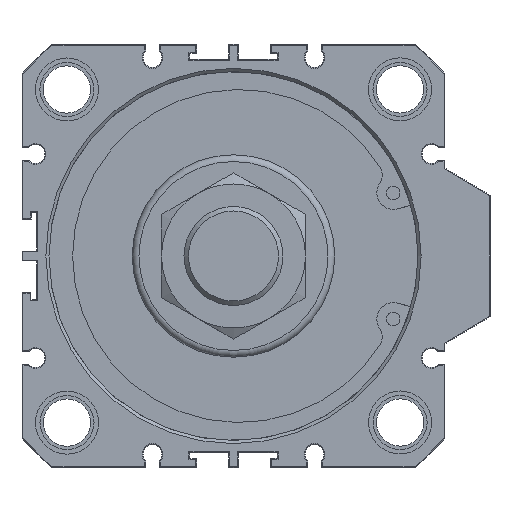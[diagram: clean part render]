
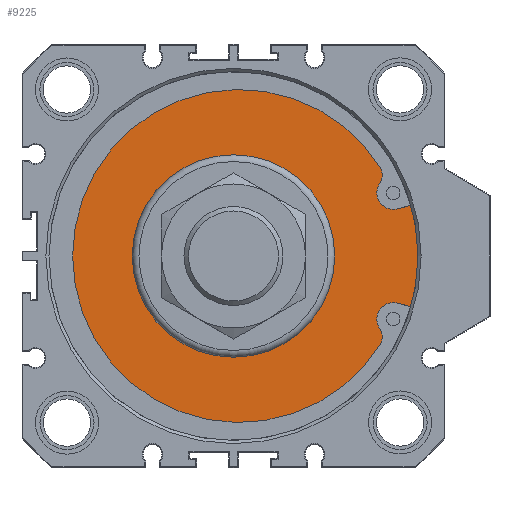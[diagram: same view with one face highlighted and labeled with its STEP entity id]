
A CAD part, front view. The second image highlights one B-rep face of the part: STEP entity #9225.
In plain terms, the highlighted planar face has unit normal (0, -1, 0).
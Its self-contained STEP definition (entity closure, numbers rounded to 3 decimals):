
#40=LINE('',#12421,#640);
#41=LINE('',#12433,#641);
#640=VECTOR('',#10419,1000.);
#641=VECTOR('',#10430,1000.);
#1597=ORIENTED_EDGE('',*,*,#3304,.T.);
#1598=ORIENTED_EDGE('',*,*,#3307,.F.);
#1599=ORIENTED_EDGE('',*,*,#3308,.T.);
#1600=ORIENTED_EDGE('',*,*,#3309,.T.);
#1601=ORIENTED_EDGE('',*,*,#3310,.T.);
#1602=ORIENTED_EDGE('',*,*,#3311,.T.);
#1603=ORIENTED_EDGE('',*,*,#3312,.T.);
#1604=ORIENTED_EDGE('',*,*,#3313,.T.);
#1605=ORIENTED_EDGE('',*,*,#3314,.T.);
#3304=EDGE_CURVE('',#4168,#4168,#4680,.T.);
#3307=EDGE_CURVE('',#4171,#4172,#4683,.T.);
#3308=EDGE_CURVE('',#4171,#4173,#40,.T.);
#3309=EDGE_CURVE('',#4173,#4174,#4684,.T.);
#3310=EDGE_CURVE('',#4174,#4175,#4685,.T.);
#3311=EDGE_CURVE('',#4175,#4176,#4686,.T.);
#3312=EDGE_CURVE('',#4176,#4177,#4687,.T.);
#3313=EDGE_CURVE('',#4177,#4178,#4688,.T.);
#3314=EDGE_CURVE('',#4178,#4172,#41,.T.);
#4168=VERTEX_POINT('',#12410);
#4171=VERTEX_POINT('',#12419);
#4172=VERTEX_POINT('',#12420);
#4173=VERTEX_POINT('',#12422);
#4174=VERTEX_POINT('',#12424);
#4175=VERTEX_POINT('',#12426);
#4176=VERTEX_POINT('',#12428);
#4177=VERTEX_POINT('',#12430);
#4178=VERTEX_POINT('',#12432);
#4680=CIRCLE('',#9684,22.5);
#4683=CIRCLE('',#9690,42.75);
#4684=CIRCLE('',#9691,3.655);
#4685=CIRCLE('',#9692,3.556);
#4686=CIRCLE('',#9693,37.);
#4687=CIRCLE('',#9694,3.556);
#4688=CIRCLE('',#9695,3.655);
#4913=EDGE_LOOP('',(#1597));
#4914=EDGE_LOOP('',(#1598,#1599,#1600,#1601,#1602,#1603,#1604,#1605));
#5427=FACE_BOUND('',#4913,.T.);
#5428=FACE_BOUND('',#4914,.T.);
#5914=PLANE('',#9689);
#9225=ADVANCED_FACE('',(#5427,#5428),#5914,.F.);
#9684=AXIS2_PLACEMENT_3D('',#12409,#10405,#10406);
#9689=AXIS2_PLACEMENT_3D('',#12417,#10415,#10416);
#9690=AXIS2_PLACEMENT_3D('',#12418,#10417,#10418);
#9691=AXIS2_PLACEMENT_3D('',#12423,#10420,#10421);
#9692=AXIS2_PLACEMENT_3D('',#12425,#10422,#10423);
#9693=AXIS2_PLACEMENT_3D('',#12427,#10424,#10425);
#9694=AXIS2_PLACEMENT_3D('',#12429,#10426,#10427);
#9695=AXIS2_PLACEMENT_3D('',#12431,#10428,#10429);
#10405=DIRECTION('',(0.,1.,0.));
#10406=DIRECTION('',(-1.,0.,0.));
#10415=DIRECTION('',(0.,1.,0.));
#10416=DIRECTION('',(-1.,0.,0.));
#10417=DIRECTION('',(0.,1.,0.));
#10418=DIRECTION('',(-1.,0.,0.));
#10419=DIRECTION('',(-0.966,0.,-0.259));
#10420=DIRECTION('',(0.,1.,0.));
#10421=DIRECTION('',(1.,0.,0.));
#10422=DIRECTION('',(0.,-1.,0.));
#10423=DIRECTION('',(-1.,0.,0.));
#10424=DIRECTION('',(0.,-1.,0.));
#10425=DIRECTION('',(1.,0.,0.));
#10426=DIRECTION('',(0.,-1.,0.));
#10427=DIRECTION('',(-1.,0.,0.));
#10428=DIRECTION('',(0.,1.,0.));
#10429=DIRECTION('',(1.,0.,0.));
#10430=DIRECTION('',(0.966,0.,-0.259));
#12409=CARTESIAN_POINT('',(0.,5.5,0.));
#12410=CARTESIAN_POINT('',(-22.5,5.5,0.));
#12417=CARTESIAN_POINT('',(0.,5.5,-3.67));
#12418=CARTESIAN_POINT('',(0.,5.5,0.));
#12419=CARTESIAN_POINT('',(41.112,5.5,11.72));
#12420=CARTESIAN_POINT('',(41.112,5.5,-11.72));
#12421=CARTESIAN_POINT('',(41.112,5.5,11.72));
#12422=CARTESIAN_POINT('',(36.445,5.5,10.469));
#12423=CARTESIAN_POINT('',(35.499,5.5,14.));
#12424=CARTESIAN_POINT('',(32.311,5.5,15.788));
#12425=CARTESIAN_POINT('',(29.497,5.5,17.962));
#12426=CARTESIAN_POINT('',(32.729,5.5,19.444));
#12427=CARTESIAN_POINT('',(1.25,5.5,0.));
#12428=CARTESIAN_POINT('',(32.729,5.5,-19.444));
#12429=CARTESIAN_POINT('',(29.497,5.5,-17.962));
#12430=CARTESIAN_POINT('',(32.311,5.5,-15.788));
#12431=CARTESIAN_POINT('',(35.499,5.5,-14.));
#12432=CARTESIAN_POINT('',(36.445,5.5,-10.469));
#12433=CARTESIAN_POINT('',(36.445,5.5,-10.469));
